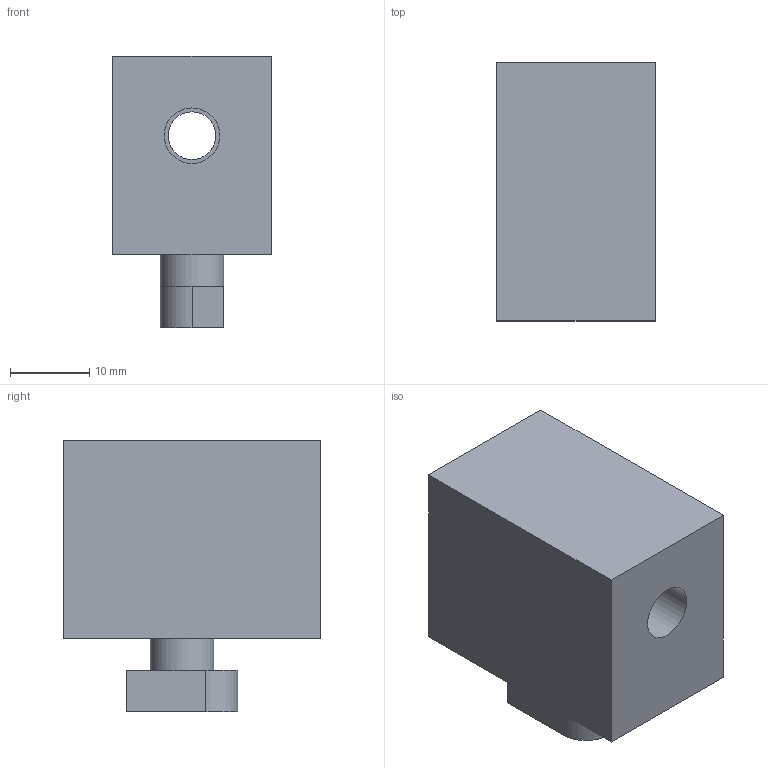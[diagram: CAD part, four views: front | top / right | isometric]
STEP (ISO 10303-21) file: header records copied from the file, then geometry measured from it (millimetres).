
FILE_DESCRIPTION((''),'2;1');
FILE_NAME('C:\Documents and Settings\古川典政\My Documents\Inventor\HP用\MasterData\BRACKET\M8\PMC-08-6.stp','2008-07-31T11:04:32',(''),(''),'Autodesk Inventor 2008','Autodesk Inventor 2008','');
FILE_SCHEMA(('CONFIG_CONTROL_DESIGN'));
Length unit declared in the file: millimetre
Products named in the file (1): PMC-08-6
Bounding box: 20 x 32.5 x 34.2 mm (x, y, z)
Volume: 15798.3 mm3; surface area: 4988.5 mm2
Topology: 1 solids, 1 shells, 21 faces, 47 edges, 31 vertices
Faces by surface type: plane 13, bspline 5, cylinder 3
Full cylindrical faces by diameter (mm): 8 x1
Entity records: 608 total; most frequent: CARTESIAN_POINT 149, DIRECTION 88, ORIENTED_EDGE 82, EDGE_CURVE 41, AXIS2_PLACEMENT_3D 30, EDGE_LOOP 30, VERTEX_POINT 29, VECTOR 28
